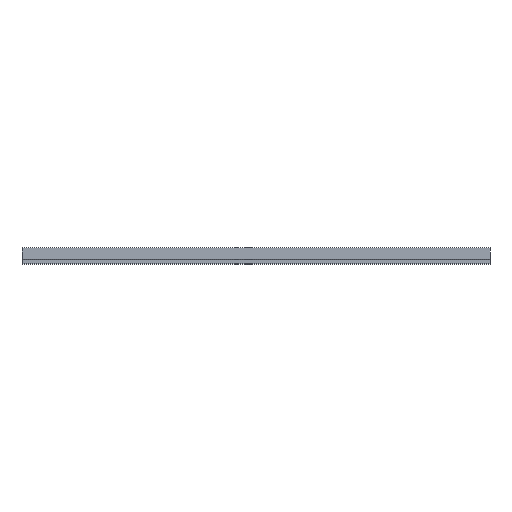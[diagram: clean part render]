
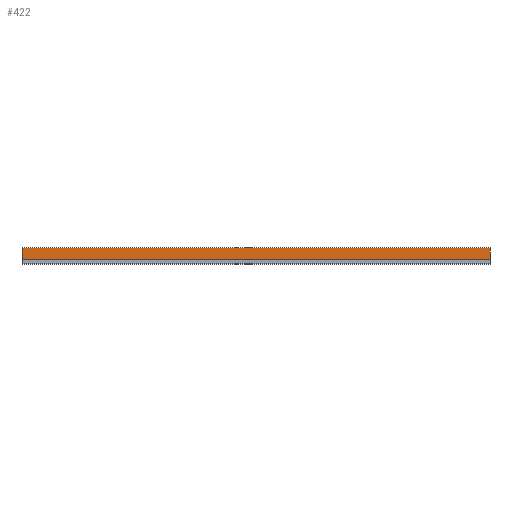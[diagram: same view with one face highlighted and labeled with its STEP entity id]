
A CAD part, left-side view. The second image highlights one B-rep face of the part: STEP entity #422.
In plain terms, the highlighted planar face has unit normal (-1, 0, 0).
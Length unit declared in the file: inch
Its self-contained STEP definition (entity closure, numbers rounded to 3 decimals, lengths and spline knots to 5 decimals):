
#25=PLANE('',#478);
#46=FACE_OUTER_BOUND('',#68,.T.);
#68=EDGE_LOOP('',(#345,#346,#347,#348));
#110=LINE('',#712,#154);
#111=LINE('',#715,#155);
#112=LINE('',#717,#156);
#113=LINE('',#718,#157);
#154=VECTOR('',#586,0.3937);
#155=VECTOR('',#589,0.3937);
#156=VECTOR('',#590,0.3937);
#157=VECTOR('',#591,0.3937);
#211=VERTEX_POINT('',#708);
#212=VERTEX_POINT('',#710);
#213=VERTEX_POINT('',#714);
#214=VERTEX_POINT('',#716);
#268=EDGE_CURVE('',#211,#212,#110,.T.);
#269=EDGE_CURVE('',#213,#211,#111,.T.);
#270=EDGE_CURVE('',#214,#212,#112,.T.);
#271=EDGE_CURVE('',#213,#214,#113,.T.);
#345=ORIENTED_EDGE('',*,*,#269,.T.);
#346=ORIENTED_EDGE('',*,*,#268,.T.);
#347=ORIENTED_EDGE('',*,*,#270,.F.);
#348=ORIENTED_EDGE('',*,*,#271,.F.);
#422=ADVANCED_FACE('',(#46),#25,.T.);
#478=AXIS2_PLACEMENT_3D('',#713,#587,#588);
#586=DIRECTION('',(0.,1.,0.));
#587=DIRECTION('center_axis',(-1.,0.,0.));
#588=DIRECTION('ref_axis',(0.,0.,1.));
#589=DIRECTION('',(0.,0.,1.));
#590=DIRECTION('',(0.,0.,1.));
#591=DIRECTION('',(0.,1.,0.));
#708=CARTESIAN_POINT('',(0.08986,0.,-2.15734));
#710=CARTESIAN_POINT('',(0.08986,120.,-2.15734));
#712=CARTESIAN_POINT('',(0.08986,0.,-2.15734));
#713=CARTESIAN_POINT('Origin',(0.08986,0.,-5.1339));
#714=CARTESIAN_POINT('',(0.08986,0.,-5.1339));
#715=CARTESIAN_POINT('',(0.08986,0.,-5.1339));
#716=CARTESIAN_POINT('',(0.08986,120.,-5.1339));
#717=CARTESIAN_POINT('',(0.08986,120.,-5.1339));
#718=CARTESIAN_POINT('',(0.08986,0.,-5.1339));
